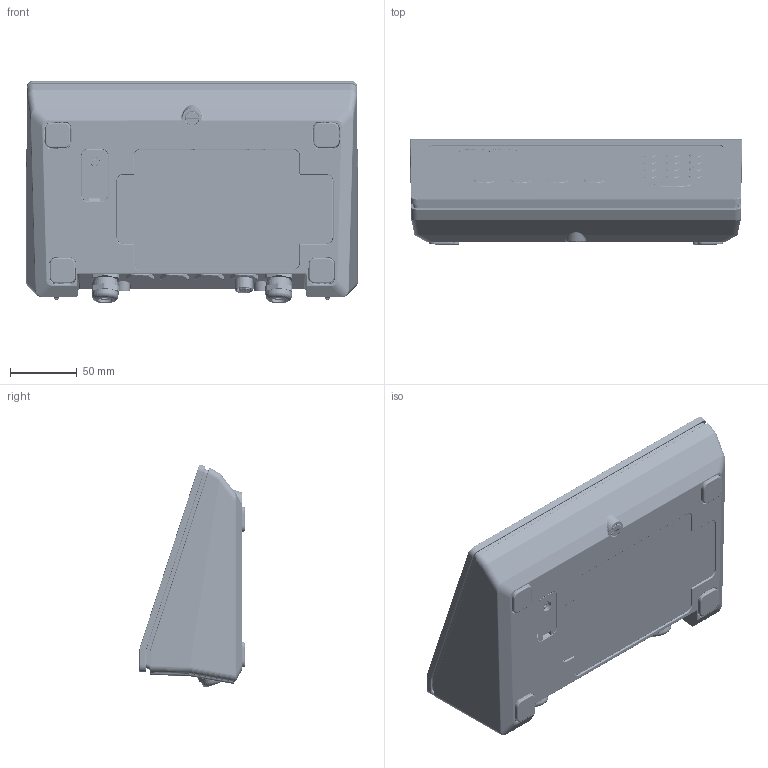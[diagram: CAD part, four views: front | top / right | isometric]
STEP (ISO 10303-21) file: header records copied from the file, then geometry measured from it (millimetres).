
FILE_DESCRIPTION((''),'2;1');
FILE_NAME('22023022_X','2012-07-30T',('Liebchen-1'),(''),'PRO/ENGINEER BY PARAMETRIC TECHNOLOGY CORPORATION, 2010160','PRO/ENGINEER BY PARAMETRIC TECHNOLOGY CORPORATION, 2010160','');
FILE_SCHEMA(('CONFIG_CONTROL_DESIGN'));
Products named in the file (1): 22023022_X
Bounding box: 248.73 x 78.95 x 167 mm (x, y, z)
Surface area: 398163.5 mm2 (no closed solid volume)
Topology: 0 solids, 228 shells, 5930 faces, 17279 edges, 11209 vertices
Faces by surface type: cylinder 1950, bspline 1742, plane 1397, cone 391, torus 255, sphere 154, extrusion 41
Entity records: 344948 total; most frequent: CARTESIAN_POINT 165370, ORIENTED_EDGE 29181, DIRECTION 25074, EDGE_CURVE 17224, VERTEX_POINT 11209, AXIS2_PLACEMENT_3D 8964, VECTOR 7146, LINE 7105
